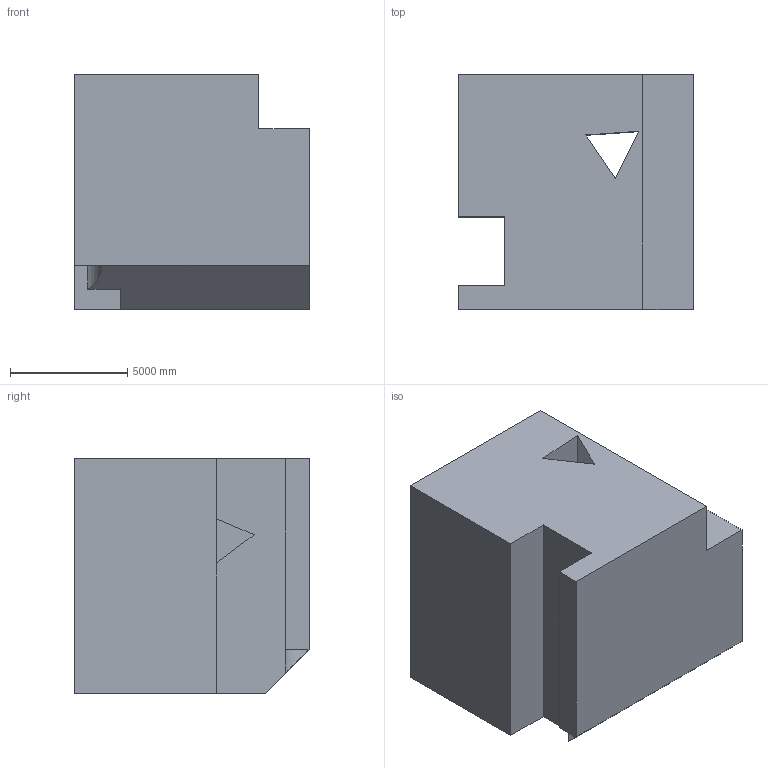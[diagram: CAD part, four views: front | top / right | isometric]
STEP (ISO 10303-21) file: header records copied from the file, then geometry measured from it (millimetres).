
FILE_DESCRIPTION (( 'STEP AP203' ), '1' );
FILE_NAME ('121.STEP', '2022-08-31T11:42:53', ( 'user' ), ( '' ), 'SwSTEP 2.0', 'SolidWorks 2021', '' );
FILE_SCHEMA (( 'CONFIG_CONTROL_DESIGN' ));
Length unit declared in the file: centimetre
Products named in the file (1): 121
Bounding box: 10000 x 10000 x 10000 mm (x, y, z)
Volume: 831081572755.9 mm3; surface area: 729503567.3 mm2
Topology: 1 solids, 1 shells, 29 faces, 75 edges, 50 vertices
Faces by surface type: plane 28, cylinder 1
Entity records: 951 total; most frequent: CARTESIAN_POINT 158, ORIENTED_EDGE 150, DIRECTION 135, EDGE_CURVE 75, LINE 73, VECTOR 73, VERTEX_POINT 50, EDGE_LOOP 33
